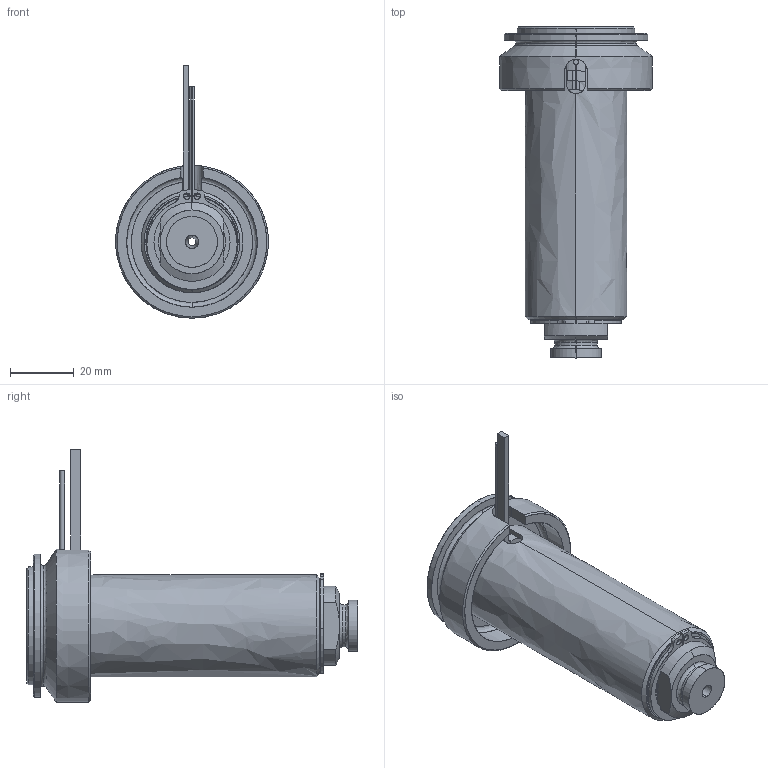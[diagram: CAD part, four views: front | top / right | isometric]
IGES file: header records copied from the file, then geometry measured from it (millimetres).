
Start section: SolidWorks IGES file using analytic representation for surfaces
Global section: file name: C:\Documents and Settings\ws-20\Desktop\TEMPORANEA\UGBE5002-M-A-5 [Ød-2.5 P-0 ØC-12].IGS; native system: SolidWorks 2012; preprocessor: SolidWorks 2012; author: ws-20; date: 120306.145045; units: millimetre
Bounding box: 48 x 104.25 x 79.3 mm (x, y, z)
Surface area: 39460.9 mm2 (no closed solid volume)
Topology: 0 solids, 0 shells, 112 faces, 2058 edges, 2058 vertices
Faces by surface type: revolution 64, bspline 48
